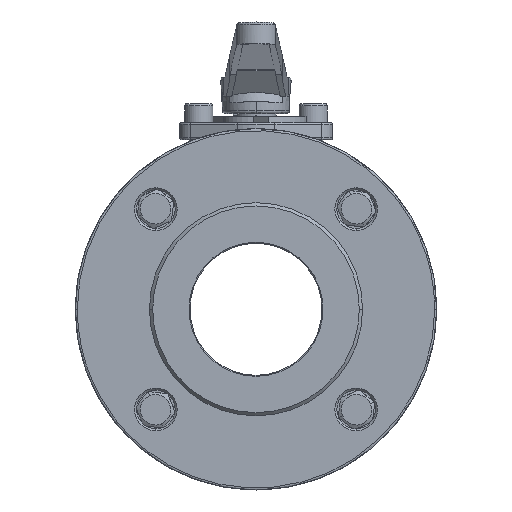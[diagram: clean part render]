
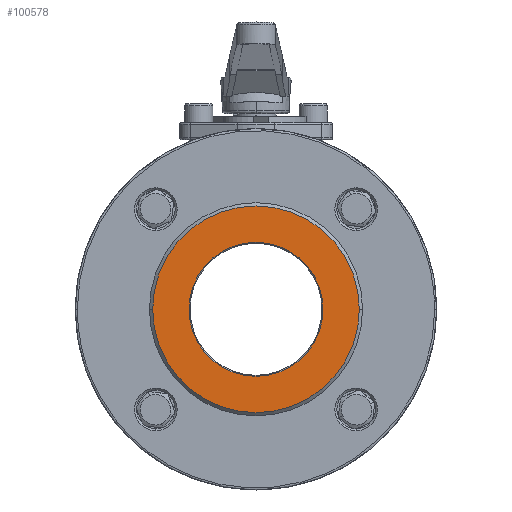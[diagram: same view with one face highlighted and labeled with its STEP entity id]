
A CAD part, left-side view. The second image highlights one B-rep face of the part: STEP entity #100578.
In plain terms, the highlighted planar face has unit normal (-1, 0, 0).
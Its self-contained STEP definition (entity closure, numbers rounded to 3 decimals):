
#82128 = EDGE_CURVE('',#82129,#82131,#82133,.T.);
#82129 = VERTEX_POINT('',#82130);
#82130 = CARTESIAN_POINT('',(-96.9,-6.56,-5.304));
#82131 = VERTEX_POINT('',#82132);
#82132 = CARTESIAN_POINT('',(-96.9,-108.36,-5.304));
#82133 = SURFACE_CURVE('',#82134,(#82139,#82151),.PCURVE_S1.);
#82134 = CIRCLE('',#82135,50.9);
#82135 = AXIS2_PLACEMENT_3D('',#82136,#82137,#82138);
#82136 = CARTESIAN_POINT('',(-96.9,-57.46,-5.304));
#82137 = DIRECTION('',(1.,0.,0.));
#82138 = DIRECTION('',(-0.,1.,0.));
#82139 = PCURVE('',#82140,#82145);
#82140 = CONICAL_SURFACE('',#82141,52.5,0.785);
#82141 = AXIS2_PLACEMENT_3D('',#82142,#82143,#82144);
#82142 = CARTESIAN_POINT('',(-95.3,-57.46,-5.304));
#82143 = DIRECTION('',(1.,0.,0.));
#82144 = DIRECTION('',(-0.,1.,0.));
#82145 = DEFINITIONAL_REPRESENTATION('',(#82146),#82150);
#82146 = LINE('',#82147,#82148);
#82147 = CARTESIAN_POINT('',(0.,-1.6));
#82148 = VECTOR('',#82149,1.);
#82149 = DIRECTION('',(1.,0.));
#82150 = ( GEOMETRIC_REPRESENTATION_CONTEXT(2) 
PARAMETRIC_REPRESENTATION_CONTEXT() REPRESENTATION_CONTEXT('2D SPACE',''
  ) );
#82151 = PCURVE('',#82152,#82157);
#82152 = PLANE('',#82153);
#82153 = AXIS2_PLACEMENT_3D('',#82154,#82155,#82156);
#82154 = CARTESIAN_POINT('',(-96.9,-57.46,-61.981));
#82155 = DIRECTION('',(-1.,0.,0.));
#82156 = DIRECTION('',(-0.,-1.,0.));
#82157 = DEFINITIONAL_REPRESENTATION('',(#82158),#82166);
#82158 = ( BOUNDED_CURVE() B_SPLINE_CURVE(2,(#82159,#82160,#82161,#82162
    ,#82163,#82164,#82165),.UNSPECIFIED.,.T.,.F.) 
B_SPLINE_CURVE_WITH_KNOTS((1,2,2,2,2,1),(-2.094,0.,
    2.094,4.189,6.283,8.378),
.UNSPECIFIED.) CURVE() GEOMETRIC_REPRESENTATION_ITEM() 
RATIONAL_B_SPLINE_CURVE((1.,0.5,1.,0.5,1.,0.5,1.)) REPRESENTATION_ITEM(
  '') );
#82159 = CARTESIAN_POINT('',(-50.9,56.677));
#82160 = CARTESIAN_POINT('',(-50.9,144.838));
#82161 = CARTESIAN_POINT('',(25.45,100.757));
#82162 = CARTESIAN_POINT('',(101.8,56.677));
#82163 = CARTESIAN_POINT('',(25.45,12.596));
#82164 = CARTESIAN_POINT('',(-50.9,-31.485));
#82165 = CARTESIAN_POINT('',(-50.9,56.677));
#82166 = ( GEOMETRIC_REPRESENTATION_CONTEXT(2) 
PARAMETRIC_REPRESENTATION_CONTEXT() REPRESENTATION_CONTEXT('2D SPACE',''
  ) );
#82184 = CONICAL_SURFACE('',#82185,52.5,0.785);
#82185 = AXIS2_PLACEMENT_3D('',#82186,#82187,#82188);
#82186 = CARTESIAN_POINT('',(-95.3,-57.46,-5.304));
#82187 = DIRECTION('',(1.,0.,0.));
#82188 = DIRECTION('',(-0.,1.,0.));
#82350 = CONICAL_SURFACE('',#82351,33.,0.785);
#82351 = AXIS2_PLACEMENT_3D('',#82352,#82353,#82354);
#82352 = CARTESIAN_POINT('',(-96.9,-57.46,-5.304));
#82353 = DIRECTION('',(-1.,0.,0.));
#82354 = DIRECTION('',(0.,0.,-1.));
#82375 = VERTEX_POINT('',#82376);
#82376 = CARTESIAN_POINT('',(-96.9,-57.46,-38.304));
#82390 = CONICAL_SURFACE('',#82391,33.,0.785);
#82391 = AXIS2_PLACEMENT_3D('',#82392,#82393,#82394);
#82392 = CARTESIAN_POINT('',(-96.9,-57.46,-5.304));
#82393 = DIRECTION('',(-1.,0.,0.));
#82394 = DIRECTION('',(0.,0.,-1.));
#82402 = EDGE_CURVE('',#82375,#82403,#82405,.T.);
#82403 = VERTEX_POINT('',#82404);
#82404 = CARTESIAN_POINT('',(-96.9,-57.46,27.696));
#82405 = SURFACE_CURVE('',#82406,(#82411,#82418),.PCURVE_S1.);
#82406 = CIRCLE('',#82407,33.);
#82407 = AXIS2_PLACEMENT_3D('',#82408,#82409,#82410);
#82408 = CARTESIAN_POINT('',(-96.9,-57.46,-5.304));
#82409 = DIRECTION('',(1.,0.,0.));
#82410 = DIRECTION('',(0.,0.,-1.));
#82411 = PCURVE('',#82350,#82412);
#82412 = DEFINITIONAL_REPRESENTATION('',(#82413),#82417);
#82413 = LINE('',#82414,#82415);
#82414 = CARTESIAN_POINT('',(6.283,0.));
#82415 = VECTOR('',#82416,1.);
#82416 = DIRECTION('',(-1.,0.));
#82417 = ( GEOMETRIC_REPRESENTATION_CONTEXT(2) 
PARAMETRIC_REPRESENTATION_CONTEXT() REPRESENTATION_CONTEXT('2D SPACE',''
  ) );
#82418 = PCURVE('',#82152,#82419);
#82419 = DEFINITIONAL_REPRESENTATION('',(#82420),#82428);
#82420 = ( BOUNDED_CURVE() B_SPLINE_CURVE(2,(#82421,#82422,#82423,#82424
    ,#82425,#82426,#82427),.UNSPECIFIED.,.T.,.F.) 
B_SPLINE_CURVE_WITH_KNOTS((1,2,2,2,2,1),(-2.094,0.,
    2.094,4.189,6.283,8.378),
.UNSPECIFIED.) CURVE() GEOMETRIC_REPRESENTATION_ITEM() 
RATIONAL_B_SPLINE_CURVE((1.,0.5,1.,0.5,1.,0.5,1.)) REPRESENTATION_ITEM(
  '') );
#82421 = CARTESIAN_POINT('',(0.,23.677));
#82422 = CARTESIAN_POINT('',(-57.158,23.677));
#82423 = CARTESIAN_POINT('',(-28.579,73.177));
#82424 = CARTESIAN_POINT('',(0.,122.677));
#82425 = CARTESIAN_POINT('',(28.579,73.177));
#82426 = CARTESIAN_POINT('',(57.158,23.677));
#82427 = CARTESIAN_POINT('',(0.,23.677));
#82428 = ( GEOMETRIC_REPRESENTATION_CONTEXT(2) 
PARAMETRIC_REPRESENTATION_CONTEXT() REPRESENTATION_CONTEXT('2D SPACE',''
  ) );
#98702 = EDGE_CURVE('',#82131,#82129,#98703,.T.);
#98703 = SURFACE_CURVE('',#98704,(#98709,#98716),.PCURVE_S1.);
#98704 = CIRCLE('',#98705,50.9);
#98705 = AXIS2_PLACEMENT_3D('',#98706,#98707,#98708);
#98706 = CARTESIAN_POINT('',(-96.9,-57.46,-5.304));
#98707 = DIRECTION('',(1.,0.,0.));
#98708 = DIRECTION('',(-0.,1.,0.));
#98709 = PCURVE('',#82184,#98710);
#98710 = DEFINITIONAL_REPRESENTATION('',(#98711),#98715);
#98711 = LINE('',#98712,#98713);
#98712 = CARTESIAN_POINT('',(0.,-1.6));
#98713 = VECTOR('',#98714,1.);
#98714 = DIRECTION('',(1.,0.));
#98715 = ( GEOMETRIC_REPRESENTATION_CONTEXT(2) 
PARAMETRIC_REPRESENTATION_CONTEXT() REPRESENTATION_CONTEXT('2D SPACE',''
  ) );
#98716 = PCURVE('',#82152,#98717);
#98717 = DEFINITIONAL_REPRESENTATION('',(#98718),#98726);
#98718 = ( BOUNDED_CURVE() B_SPLINE_CURVE(2,(#98719,#98720,#98721,#98722
    ,#98723,#98724,#98725),.UNSPECIFIED.,.T.,.F.) 
B_SPLINE_CURVE_WITH_KNOTS((1,2,2,2,2,1),(-2.094,0.,
    2.094,4.189,6.283,8.378),
.UNSPECIFIED.) CURVE() GEOMETRIC_REPRESENTATION_ITEM() 
RATIONAL_B_SPLINE_CURVE((1.,0.5,1.,0.5,1.,0.5,1.)) REPRESENTATION_ITEM(
  '') );
#98719 = CARTESIAN_POINT('',(-50.9,56.677));
#98720 = CARTESIAN_POINT('',(-50.9,144.838));
#98721 = CARTESIAN_POINT('',(25.45,100.757));
#98722 = CARTESIAN_POINT('',(101.8,56.677));
#98723 = CARTESIAN_POINT('',(25.45,12.596));
#98724 = CARTESIAN_POINT('',(-50.9,-31.485));
#98725 = CARTESIAN_POINT('',(-50.9,56.677));
#98726 = ( GEOMETRIC_REPRESENTATION_CONTEXT(2) 
PARAMETRIC_REPRESENTATION_CONTEXT() REPRESENTATION_CONTEXT('2D SPACE',''
  ) );
#100578 = ADVANCED_FACE('',(#100579,#100583),#82152,.T.);
#100579 = FACE_BOUND('',#100580,.T.);
#100580 = EDGE_LOOP('',(#100581,#100582));
#100581 = ORIENTED_EDGE('',*,*,#82128,.F.);
#100582 = ORIENTED_EDGE('',*,*,#98702,.F.);
#100583 = FACE_BOUND('',#100584,.T.);
#100584 = EDGE_LOOP('',(#100585,#100586));
#100585 = ORIENTED_EDGE('',*,*,#82402,.T.);
#100586 = ORIENTED_EDGE('',*,*,#100587,.T.);
#100587 = EDGE_CURVE('',#82403,#82375,#100588,.T.);
#100588 = SURFACE_CURVE('',#100589,(#100594,#100605),.PCURVE_S1.);
#100589 = CIRCLE('',#100590,33.);
#100590 = AXIS2_PLACEMENT_3D('',#100591,#100592,#100593);
#100591 = CARTESIAN_POINT('',(-96.9,-57.46,-5.304));
#100592 = DIRECTION('',(1.,0.,0.));
#100593 = DIRECTION('',(0.,0.,-1.));
#100594 = PCURVE('',#82152,#100595);
#100595 = DEFINITIONAL_REPRESENTATION('',(#100596),#100604);
#100596 = ( BOUNDED_CURVE() B_SPLINE_CURVE(2,(#100597,#100598,#100599,
    #100600,#100601,#100602,#100603),.UNSPECIFIED.,.T.,.F.) 
B_SPLINE_CURVE_WITH_KNOTS((1,2,2,2,2,1),(-2.094,0.,
    2.094,4.189,6.283,8.378),
.UNSPECIFIED.) CURVE() GEOMETRIC_REPRESENTATION_ITEM() 
RATIONAL_B_SPLINE_CURVE((1.,0.5,1.,0.5,1.,0.5,1.)) REPRESENTATION_ITEM(
  '') );
#100597 = CARTESIAN_POINT('',(0.,23.677));
#100598 = CARTESIAN_POINT('',(-57.158,23.677));
#100599 = CARTESIAN_POINT('',(-28.579,73.177));
#100600 = CARTESIAN_POINT('',(0.,122.677));
#100601 = CARTESIAN_POINT('',(28.579,73.177));
#100602 = CARTESIAN_POINT('',(57.158,23.677));
#100603 = CARTESIAN_POINT('',(0.,23.677));
#100604 = ( GEOMETRIC_REPRESENTATION_CONTEXT(2) 
PARAMETRIC_REPRESENTATION_CONTEXT() REPRESENTATION_CONTEXT('2D SPACE',''
  ) );
#100605 = PCURVE('',#82390,#100606);
#100606 = DEFINITIONAL_REPRESENTATION('',(#100607),#100611);
#100607 = LINE('',#100608,#100609);
#100608 = CARTESIAN_POINT('',(6.283,0.));
#100609 = VECTOR('',#100610,1.);
#100610 = DIRECTION('',(-1.,0.));
#100611 = ( GEOMETRIC_REPRESENTATION_CONTEXT(2) 
PARAMETRIC_REPRESENTATION_CONTEXT() REPRESENTATION_CONTEXT('2D SPACE',''
  ) );
